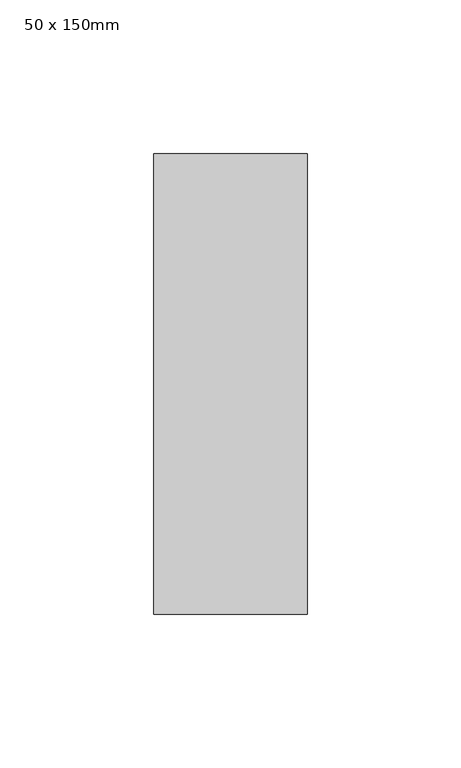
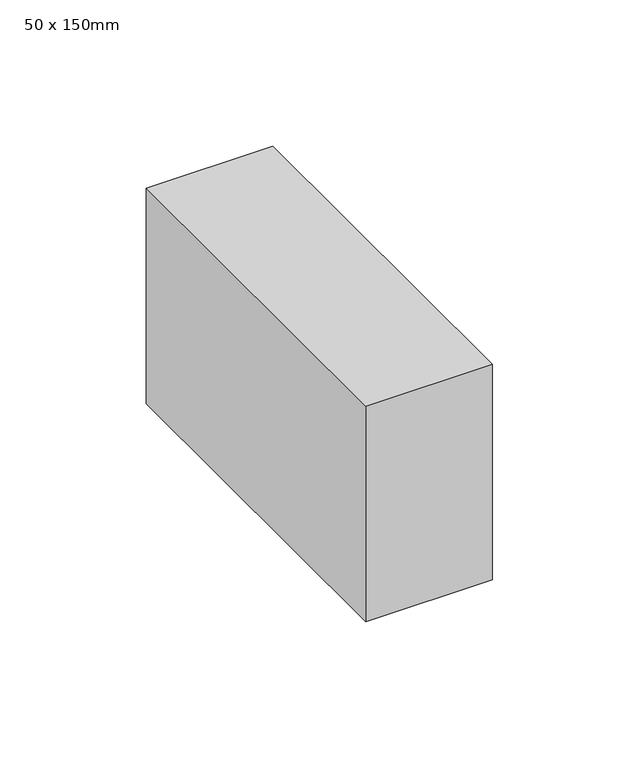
"""IFC4 building model written with IfcOpenShell, lengths in millimetres: member geometry, Прямоугольный импост : 50 x 150mm."""

from ifc_helpers import new_model, si_unit, frame, origin, place, context, project, spatial, polyline, outline, extrude, source, transform, mapped, element, save


def member_50_x_150mm_505fd4c1(model_context):
    return source(origin(), model_context, "Body", "SweptSolid", [
        extrude(outline(polyline([(0.0, 75.0), (0.0, -75.0), (-50.0, -75.0), (-50.0, 75.0), (0.0, 75.0)])), frame((0.0, 0.0, -90.0), z_axis=(0.0, 0.0, 1.0), x_axis=(1.0, 0.0, 0.0)), (0.0, 0.0, 1.0), 90.0),
    ])


if __name__ == "__main__":
    model = new_model("IFC4")
    model_context = context("Model", 3, world=origin())
    ifc_project = project(units=[si_unit("LENGTHUNIT", "METRE", prefix="MILLI")], contexts=[model_context])
    site = spatial("IfcSite", under=ifc_project)
    building = spatial("IfcBuilding", under=site)
    placement = place(None, origin())
    member_50_x_150mm_shape = member_50_x_150mm_505fd4c1(model_context)
    element("IfcMember", 1, ObjectType="Прямоугольный импост : 50 x 150mm", at=placement, inside=building, context=model_context, shape_type="MappedRepresentation", body=[
        mapped(member_50_x_150mm_shape, transform((0.0, 0.0, 0.0), x_axis=(1.0, 0.0, 0.0), y_axis=(0.0, 1.0, 0.0), z_axis=(0.0, 0.0, 1.0))),
    ])
    save(model, "model.ifc")
